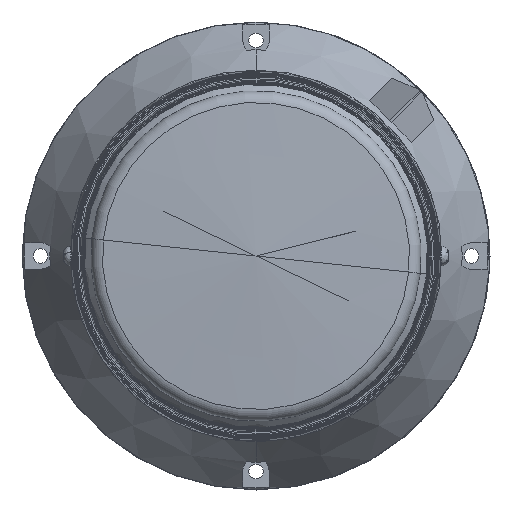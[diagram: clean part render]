
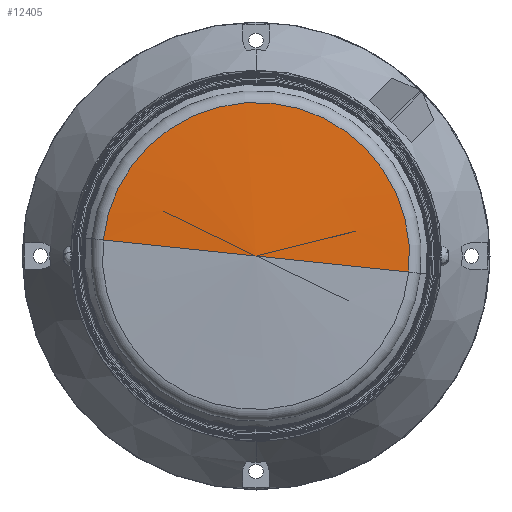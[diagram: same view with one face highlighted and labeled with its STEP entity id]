
A CAD part, front view. The second image highlights one B-rep face of the part: STEP entity #12405.
In plain terms, the highlighted conical face has half-angle 87.08 degrees and reference radius 58.076 mm.
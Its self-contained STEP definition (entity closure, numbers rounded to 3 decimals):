
#890 = VECTOR ( 'NONE', #891, 1000. ) ;
#891 = DIRECTION ( 'NONE',  ( 0.993, 0.051, -0.104 ) ) ;
#892 = LINE ( 'NONE', #898, #890 ) ;
#898 = CARTESIAN_POINT ( 'NONE',  ( 57.758, -137.038, -6.071 ) ) ;
#953 = FACE_OUTER_BOUND ( 'NONE', #12446, .T. ) ;
#955 = DIRECTION ( 'NONE',  ( 0.995, 0., -0.105 ) ) ;
#957 = AXIS2_PLACEMENT_3D ( 'NONE', #962, #958, #955 ) ;
#958 = DIRECTION ( 'NONE',  ( 0., 1., 0. ) ) ;
#960 = CONICAL_SURFACE ( 'NONE', #957, 58.076, 1.52 ) ;
#962 = CARTESIAN_POINT ( 'NONE',  ( 0., -137.038, 0. ) ) ;
#1011 = VECTOR ( 'NONE', #1012, 1000. ) ;
#1012 = DIRECTION ( 'NONE',  ( -0.993, 0.051, 0.104 ) ) ;
#1013 = LINE ( 'NONE', #1014, #1011 ) ;
#1014 = CARTESIAN_POINT ( 'NONE',  ( -57.758, -137.038, 6.071 ) ) ;
#1072 = CARTESIAN_POINT ( 'NONE',  ( -57.758, -137.038, 6.071 ) ) ;
#5615 = CARTESIAN_POINT ( 'NONE',  ( 0., -140., 0. ) ) ;
#5840 = CARTESIAN_POINT ( 'NONE',  ( 0., -137.038, 0. ) ) ;
#5848 = DIRECTION ( 'NONE',  ( 0.995, 0., -0.105 ) ) ;
#5850 = CIRCLE ( 'NONE', #5854, 58.076 ) ;
#5854 = AXIS2_PLACEMENT_3D ( 'NONE', #5840, #5861, #5848 ) ;
#5861 = DIRECTION ( 'NONE',  ( 0., 1., 0. ) ) ;
#6140 = CARTESIAN_POINT ( 'NONE',  ( 57.758, -137.038, -6.071 ) ) ;
#12292 = VERTEX_POINT ( 'NONE', #5615 ) ;
#12352 = ORIENTED_EDGE ( 'NONE', *, *, #12449, .F. ) ;
#12405 = ADVANCED_FACE ( 'NONE', ( #953 ), #960, .T. ) ;
#12408 = ORIENTED_EDGE ( 'NONE', *, *, #12501, .F. ) ;
#12446 = EDGE_LOOP ( 'NONE', ( #12352, #12612, #12408 ) ) ;
#12449 = EDGE_CURVE ( 'NONE', #12292, #12459, #1013, .T. ) ;
#12450 = EDGE_CURVE ( 'NONE', #12292, #12552, #892, .T. ) ;
#12459 = VERTEX_POINT ( 'NONE', #1072 ) ;
#12501 = EDGE_CURVE ( 'NONE', #12459, #12552, #5850, .T. ) ;
#12552 = VERTEX_POINT ( 'NONE', #6140 ) ;
#12612 = ORIENTED_EDGE ( 'NONE', *, *, #12450, .T. ) ;
